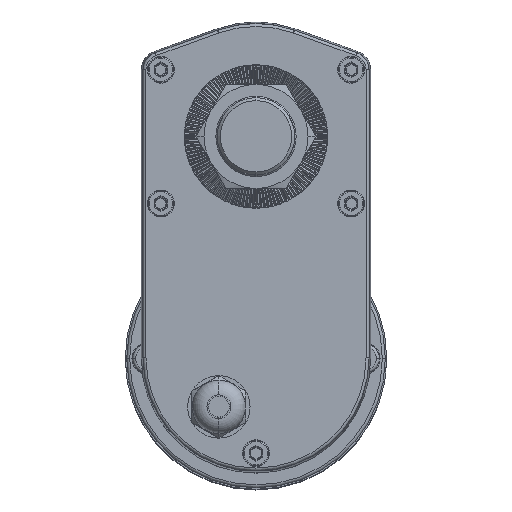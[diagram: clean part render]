
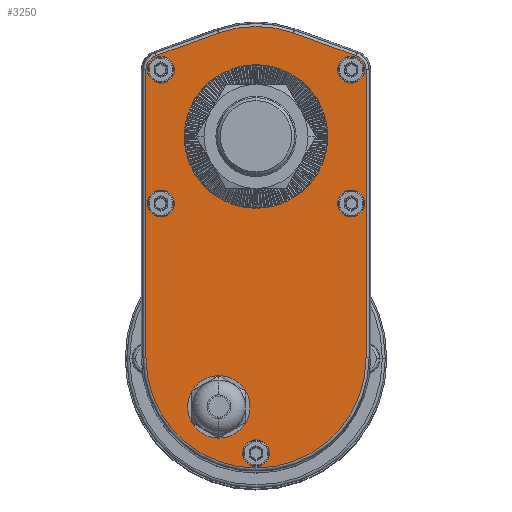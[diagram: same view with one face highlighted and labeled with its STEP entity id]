
A CAD part, top view. The second image highlights one B-rep face of the part: STEP entity #3250.
In plain terms, the highlighted planar face has unit normal (0, 0, 1).
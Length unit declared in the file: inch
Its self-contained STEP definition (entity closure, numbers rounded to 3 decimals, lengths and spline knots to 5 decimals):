
#3250=ADVANCED_FACE('NONE',(#6652,#6653,#6654,#6655,#6656,#6657,#6658,#6659),#6660,.F.);
#6652=FACE_OUTER_BOUND('',#13205,.T.);
#6653=FACE_BOUND('',#13206,.T.);
#6654=FACE_BOUND('',#13207,.T.);
#6655=FACE_BOUND('',#13208,.T.);
#6656=FACE_BOUND('',#13209,.T.);
#6657=FACE_BOUND('',#13210,.T.);
#6658=FACE_BOUND('',#13211,.T.);
#6659=FACE_BOUND('',#13212,.T.);
#6660=PLANE('',#13213);
#13205=EDGE_LOOP('',(#22970,#22971,#22972,#22973,#22974,#22975,#22976,#22977));
#13206=EDGE_LOOP('',(#22978,#22979));
#13207=EDGE_LOOP('',(#22980,#22981));
#13208=EDGE_LOOP('',(#22982,#22983));
#13209=EDGE_LOOP('',(#22984,#22985));
#13210=EDGE_LOOP('',(#22986,#22987));
#13211=EDGE_LOOP('',(#22988,#22989));
#13212=EDGE_LOOP('',(#22990,#22991));
#13213=AXIS2_PLACEMENT_3D('',#22992,#22993,#22994);
#22970=ORIENTED_EDGE('',*,*,#26907,.T.);
#22971=ORIENTED_EDGE('',*,*,#28154,.T.);
#22972=ORIENTED_EDGE('',*,*,#24605,.T.);
#22973=ORIENTED_EDGE('',*,*,#28155,.T.);
#22974=ORIENTED_EDGE('',*,*,#25322,.T.);
#22975=ORIENTED_EDGE('',*,*,#28074,.T.);
#22976=ORIENTED_EDGE('',*,*,#27899,.T.);
#22977=ORIENTED_EDGE('',*,*,#24284,.T.);
#22978=ORIENTED_EDGE('',*,*,#28156,.F.);
#22979=ORIENTED_EDGE('',*,*,#26045,.F.);
#22980=ORIENTED_EDGE('',*,*,#25819,.F.);
#22981=ORIENTED_EDGE('',*,*,#28157,.F.);
#22982=ORIENTED_EDGE('',*,*,#27557,.F.);
#22983=ORIENTED_EDGE('',*,*,#27656,.F.);
#22984=ORIENTED_EDGE('',*,*,#26402,.F.);
#22985=ORIENTED_EDGE('',*,*,#26486,.F.);
#22986=ORIENTED_EDGE('',*,*,#27275,.F.);
#22987=ORIENTED_EDGE('',*,*,#26895,.F.);
#22988=ORIENTED_EDGE('',*,*,#27583,.F.);
#22989=ORIENTED_EDGE('',*,*,#26283,.F.);
#22990=ORIENTED_EDGE('',*,*,#26593,.F.);
#22991=ORIENTED_EDGE('',*,*,#24846,.F.);
#22992=CARTESIAN_POINT('',(-1.09822,2.41333,31.65816));
#22993=DIRECTION('',(0.0,0.0,-1.0));
#22994=DIRECTION('',(0.0,-1.0,0.0));
#24284=EDGE_CURVE('NONE',#28383,#28388,#28390,.T.);
#24605=EDGE_CURVE('NONE',#28964,#28962,#28965,.T.);
#24846=EDGE_CURVE('NONE',#29371,#29366,#29373,.T.);
#25322=EDGE_CURVE('NONE',#30163,#30161,#30164,.T.);
#25819=EDGE_CURVE('NONE',#30948,#30950,#30951,.T.);
#26045=EDGE_CURVE('NONE',#31318,#31314,#31320,.T.);
#26283=EDGE_CURVE('NONE',#31680,#31678,#31682,.T.);
#26402=EDGE_CURVE('NONE',#31852,#31847,#31854,.T.);
#26486=EDGE_CURVE('NONE',#31847,#31852,#31971,.T.);
#26593=EDGE_CURVE('NONE',#29366,#29371,#32111,.T.);
#26895=EDGE_CURVE('NONE',#32519,#32517,#32521,.T.);
#26907=EDGE_CURVE('NONE',#28388,#32533,#32535,.T.);
#27275=EDGE_CURVE('NONE',#32517,#32519,#33020,.T.);
#27557=EDGE_CURVE('NONE',#33377,#33375,#33379,.T.);
#27583=EDGE_CURVE('NONE',#31678,#31680,#33407,.T.);
#27656=EDGE_CURVE('NONE',#33375,#33377,#33493,.T.);
#27899=EDGE_CURVE('NONE',#33771,#28383,#33773,.T.);
#28074=EDGE_CURVE('NONE',#30161,#33771,#33964,.T.);
#28154=EDGE_CURVE('NONE',#32533,#28964,#34047,.T.);
#28155=EDGE_CURVE('NONE',#28962,#30163,#34048,.T.);
#28156=EDGE_CURVE('NONE',#31314,#31318,#34049,.T.);
#28157=EDGE_CURVE('NONE',#30950,#30948,#34050,.T.);
#28383=VERTEX_POINT('NONE',#34349);
#28388=VERTEX_POINT('NONE',#34354);
#28390=CIRCLE('',#34356,0.19754);
#28962=VERTEX_POINT('NONE',#35587);
#28964=VERTEX_POINT('NONE',#35589);
#28965=LINE('',#35590,#35591);
#29366=VERTEX_POINT('NONE',#36518);
#29371=VERTEX_POINT('',#36524);
#29373=CIRCLE('',#36527,0.17717);
#30161=VERTEX_POINT('NONE',#38302);
#30163=VERTEX_POINT('NONE',#38304);
#30164=LINE('',#38305,#38306);
#30948=VERTEX_POINT('NONE',#40115);
#30950=VERTEX_POINT('',#40118);
#30951=CIRCLE('',#40119,0.94882);
#31314=VERTEX_POINT('NONE',#41624);
#31318=VERTEX_POINT('',#41629);
#31320=CIRCLE('',#41632,0.3248);
#31678=VERTEX_POINT('NONE',#42496);
#31680=VERTEX_POINT('',#42499);
#31682=CIRCLE('',#42502,0.17717);
#31847=VERTEX_POINT('',#42939);
#31852=VERTEX_POINT('NONE',#42945);
#31854=CIRCLE('',#42948,0.17717);
#31971=CIRCLE('',#43186,0.17717);
#32111=CIRCLE('',#43458,0.17717);
#32517=VERTEX_POINT('NONE',#44561);
#32519=VERTEX_POINT('',#44564);
#32521=CIRCLE('',#44567,0.17717);
#32533=VERTEX_POINT('NONE',#44592);
#32535=LINE('',#44594,#44595);
#33020=CIRCLE('',#45859,0.17717);
#33375=VERTEX_POINT('',#46804);
#33377=VERTEX_POINT('NONE',#46807);
#33379=CIRCLE('',#46810,0.17717);
#33407=CIRCLE('',#46905,0.17717);
#33493=CIRCLE('',#47110,0.17717);
#33771=VERTEX_POINT('NONE',#48049);
#33773=LINE('',#48051,#48052);
#33964=CIRCLE('',#48613,1.45738);
#34047=CIRCLE('',#48995,1.45718);
#34048=CIRCLE('',#48996,0.19754);
#34049=CIRCLE('',#48997,0.3248);
#34050=CIRCLE('',#48998,0.94882);
#34349=CARTESIAN_POINT('',(-2.42503,3.48335,31.65816));
#34354=CARTESIAN_POINT('',(-2.55541,3.29758,31.65816));
#34356=AXIS2_PLACEMENT_3D('',#49409,#49410,#49411);
#35587=CARTESIAN_POINT('',(0.35896,3.29758,31.65816));
#35589=CARTESIAN_POINT('',(0.35896,-0.51954,31.65816));
#35590=CARTESIAN_POINT('',(0.35896,3.29758,31.65816));
#35591=VECTOR('',#49777,39.37008);
#36518=CARTESIAN_POINT('',(-2.1809,3.29758,31.65816));
#36524=CARTESIAN_POINT('',(-2.53523,3.29758,31.65816));
#36527=AXIS2_PLACEMENT_3D('',#50053,#50054,#50055);
#38302=CARTESIAN_POINT('',(-0.60273,3.78389,31.65816));
#38304=CARTESIAN_POINT('',(0.22858,3.48335,31.65816));
#38305=CARTESIAN_POINT('',(-0.60273,3.78389,31.65816));
#38306=VECTOR('',#50530,39.37008);
#40115=CARTESIAN_POINT('',(-2.04704,2.41333,31.65816));
#40118=CARTESIAN_POINT('',(-0.14941,2.41333,31.65816));
#40119=AXIS2_PLACEMENT_3D('',#51077,#51078,#51079);
#41624=CARTESIAN_POINT('',(-1.91515,-1.16801,31.65816));
#41629=CARTESIAN_POINT('',(-1.26555,-1.16801,31.65816));
#41632=AXIS2_PLACEMENT_3D('',#51303,#51304,#51305);
#42496=CARTESIAN_POINT('',(-2.1809,1.52593,31.65816));
#42499=CARTESIAN_POINT('',(-2.53523,1.52593,31.65816));
#42502=AXIS2_PLACEMENT_3D('',#51541,#51542,#51543);
#42939=CARTESIAN_POINT('',(0.33878,1.52593,31.65816));
#42945=CARTESIAN_POINT('',(-0.01555,1.52593,31.65816));
#42948=AXIS2_PLACEMENT_3D('',#51663,#51664,#51665);
#43186=AXIS2_PLACEMENT_3D('',#51750,#51751,#51752);
#43458=AXIS2_PLACEMENT_3D('',#51870,#51871,#51872);
#44561=CARTESIAN_POINT('',(-0.92106,-1.78116,31.65816));
#44564=CARTESIAN_POINT('',(-1.27539,-1.78116,31.65816));
#44567=AXIS2_PLACEMENT_3D('',#52113,#52114,#52115);
#44592=CARTESIAN_POINT('',(-2.55541,-0.51954,31.65816));
#44594=CARTESIAN_POINT('',(-2.55541,-0.51954,31.65816));
#44595=VECTOR('',#52125,39.37008);
#45859=AXIS2_PLACEMENT_3D('',#52478,#52479,#52480);
#46804=CARTESIAN_POINT('',(0.33878,3.29758,31.65816));
#46807=CARTESIAN_POINT('',(-0.01555,3.29758,31.65816));
#46810=AXIS2_PLACEMENT_3D('',#52710,#52711,#52712);
#46905=AXIS2_PLACEMENT_3D('',#52723,#52724,#52725);
#47110=AXIS2_PLACEMENT_3D('',#52785,#52786,#52787);
#48049=CARTESIAN_POINT('',(-1.59372,3.78389,31.65816));
#48051=CARTESIAN_POINT('',(-2.42503,3.48335,31.65816));
#48052=VECTOR('',#52928,39.37008);
#48613=AXIS2_PLACEMENT_3D('',#53045,#53046,#53047);
#48995=AXIS2_PLACEMENT_3D('',#53073,#53074,#53075);
#48996=AXIS2_PLACEMENT_3D('',#53076,#53077,#53078);
#48997=AXIS2_PLACEMENT_3D('',#53079,#53080,#53081);
#48998=AXIS2_PLACEMENT_3D('',#53082,#53083,#53084);
#49409=CARTESIAN_POINT('',(-2.35787,3.29758,31.65816));
#49410=DIRECTION('',(0.0,0.0,1.0));
#49411=DIRECTION('',(-1.0,0.0,0.0));
#49777=DIRECTION('',(0.,1.0,0.0));
#50053=CARTESIAN_POINT('',(-2.35807,3.29758,31.65816));
#50054=DIRECTION('',(0.0,0.0,1.0));
#50055=DIRECTION('',(1.0,0.0,0.0));
#50530=DIRECTION('',(-0.94,0.34,0.0));
#51077=CARTESIAN_POINT('',(-1.09822,2.41333,31.65816));
#51078=DIRECTION('',(0.0,0.0,1.0));
#51079=DIRECTION('',(-1.0,0.0,0.0));
#51303=CARTESIAN_POINT('',(-1.59035,-1.16801,31.65816));
#51304=DIRECTION('',(0.0,0.0,1.0));
#51305=DIRECTION('',(-1.0,0.0,0.0));
#51541=CARTESIAN_POINT('',(-2.35807,1.52593,31.65816));
#51542=DIRECTION('',(0.0,0.0,1.0));
#51543=DIRECTION('',(1.0,0.0,0.0));
#51663=CARTESIAN_POINT('',(0.16162,1.52593,31.65816));
#51664=DIRECTION('',(0.0,0.0,1.0));
#51665=DIRECTION('',(-1.0,0.0,0.0));
#51750=CARTESIAN_POINT('',(0.16162,1.52593,31.65816));
#51751=DIRECTION('',(0.0,0.0,1.0));
#51752=DIRECTION('',(-1.0,0.0,0.0));
#51870=CARTESIAN_POINT('',(-2.35807,3.29758,31.65816));
#51871=DIRECTION('',(0.0,0.0,1.0));
#51872=DIRECTION('',(1.0,0.0,0.0));
#52113=CARTESIAN_POINT('',(-1.09822,-1.78116,31.65816));
#52114=DIRECTION('',(0.0,0.0,1.0));
#52115=DIRECTION('',(1.0,0.0,0.0));
#52125=DIRECTION('',(0.,-1.0,-0.0));
#52478=CARTESIAN_POINT('',(-1.09822,-1.78116,31.65816));
#52479=DIRECTION('',(0.0,0.0,1.0));
#52480=DIRECTION('',(1.0,0.0,0.0));
#52710=CARTESIAN_POINT('',(0.16162,3.29758,31.65816));
#52711=DIRECTION('',(0.0,0.0,1.0));
#52712=DIRECTION('',(-1.0,0.0,0.0));
#52723=CARTESIAN_POINT('',(-2.35807,1.52593,31.65816));
#52724=DIRECTION('',(0.0,0.0,1.0));
#52725=DIRECTION('',(1.0,0.0,0.0));
#52785=CARTESIAN_POINT('',(0.16162,3.29758,31.65816));
#52786=DIRECTION('',(0.0,0.0,1.0));
#52787=DIRECTION('',(-1.0,0.0,0.0));
#52928=DIRECTION('',(-0.94,-0.34,-0.0));
#53045=CARTESIAN_POINT('',(-1.09822,2.41333,31.65816));
#53046=DIRECTION('',(0.0,0.0,1.0));
#53047=DIRECTION('',(-1.0,0.,0.0));
#53073=CARTESIAN_POINT('',(-1.09822,-0.51954,31.65816));
#53074=DIRECTION('',(0.0,0.0,1.0));
#53075=DIRECTION('',(-1.0,0.0,0.0));
#53076=CARTESIAN_POINT('',(0.16142,3.29758,31.65816));
#53077=DIRECTION('',(0.0,0.0,1.0));
#53078=DIRECTION('',(-1.0,0.,0.0));
#53079=CARTESIAN_POINT('',(-1.59035,-1.16801,31.65816));
#53080=DIRECTION('',(0.0,0.0,1.0));
#53081=DIRECTION('',(-1.0,0.0,0.0));
#53082=CARTESIAN_POINT('',(-1.09822,2.41333,31.65816));
#53083=DIRECTION('',(0.0,0.0,1.0));
#53084=DIRECTION('',(-1.0,0.0,0.0));
